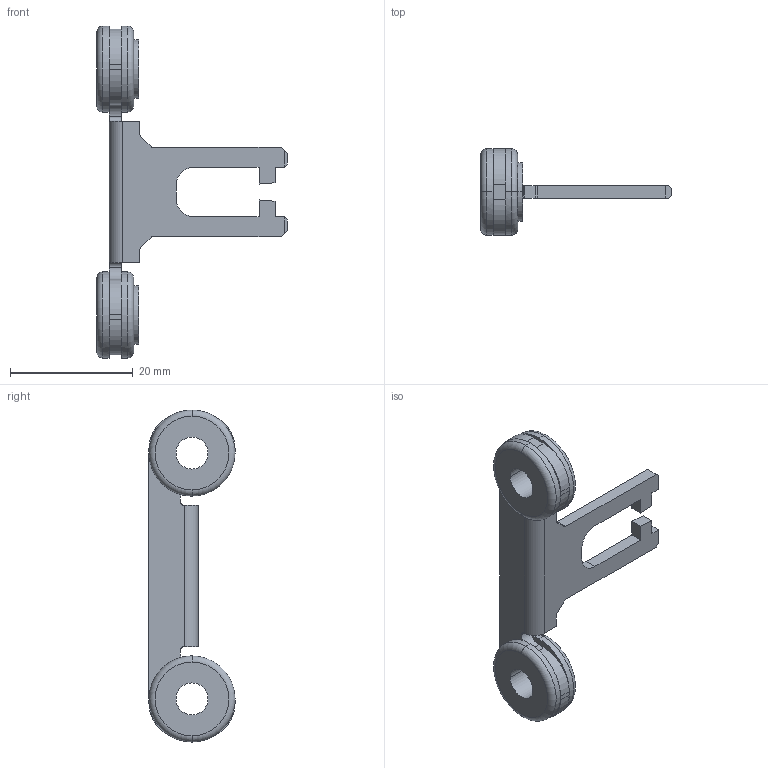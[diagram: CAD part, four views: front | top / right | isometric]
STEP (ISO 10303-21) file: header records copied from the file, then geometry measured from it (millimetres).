
FILE_DESCRIPTION (( 'STEP AP214' ), '1' );
FILE_NAME ('ZF_STEP_VF_KEYD11.step', '2023-12-15T07:58:27', ( '' ), ( '' ), 'SwSTEP 2.0', 'SolidWorks 2020', '' );
FILE_SCHEMA (( 'AUTOMOTIVE_DESIGN' ));
Length unit declared in the file: millimetre
Products named in the file (2): ZF_STEP_VF_KEYD11_Key D11; ZF_STEP_VF_KEYD11
Assembly tree (1 placements, depth 2):
  ZF_STEP_VF_KEYD11
    ZF_STEP_VF_KEYD11_Key D11
Bounding box: 31 x 14 x 54 mm (x, y, z)
Volume: 2605 mm3; surface area: 2579 mm2
Topology: 1 solids, 1 shells, 104 faces, 264 edges, 164 vertices
Faces by surface type: plane 62, cylinder 34, torus 8
Entity records: 3210 total; most frequent: DIRECTION 596, CARTESIAN_POINT 536, ORIENTED_EDGE 528, EDGE_CURVE 264, AXIS2_PLACEMENT_3D 224, VERTEX_POINT 164, LINE 148, VECTOR 148
